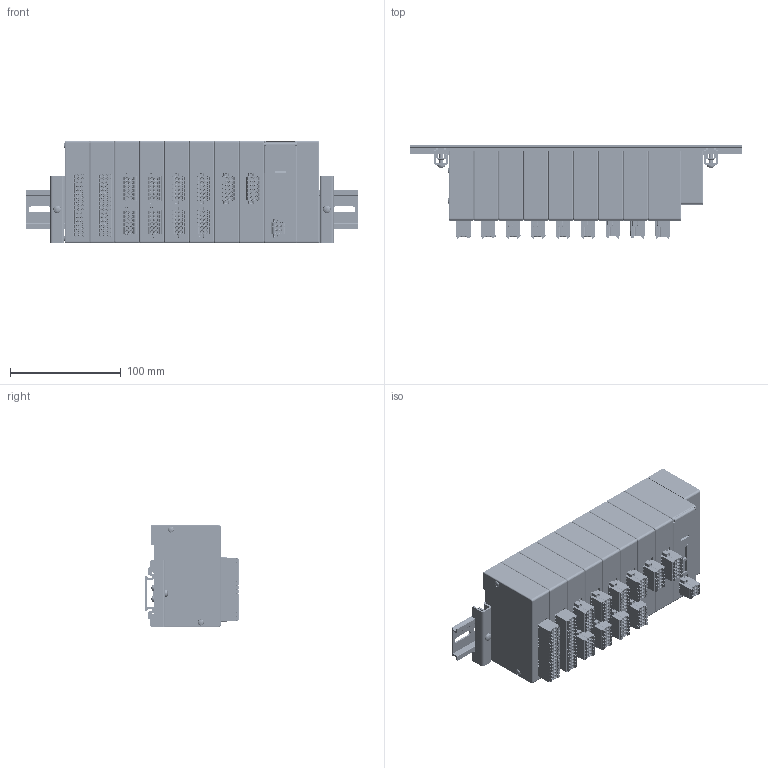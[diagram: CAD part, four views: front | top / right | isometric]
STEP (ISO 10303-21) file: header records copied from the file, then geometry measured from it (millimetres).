
FILE_DESCRIPTION( (''), '2;1');
FILE_NAME ('YS8EM3-8-DR.stp','2022-12-02T08:38:07',(''),(''),'spGate 12.6.6','','');
FILE_SCHEMA (('AUTOMOTIVE_DESIGN'));
Length unit declared in the file: millimetre
Products named in the file (8): Assembly; YS8EM3-8-DR-prt0; YS8EM3-8-DR-prt1; YS8EM3-8-DR-prt2; YS8EM3-8-DR-prt3; YS8EM3-8-DR-prt4; YS8EM3-8-DR-prt5; YS8EM3-8-DR-prt6
Assembly tree (12 placements, depth 2):
  Assembly
    YS8EM3-8-DR-prt0
    YS8EM3-8-DR-prt1
    YS8EM3-8-DR-prt2  x2
    YS8EM3-8-DR-prt3  x2
    YS8EM3-8-DR-prt4  x2
    YS8EM3-8-DR-prt5  x2
    YS8EM3-8-DR-prt6  x2
Bounding box: 300 x 84.4 x 93 mm (x, y, z)
Volume: 1340990.9 mm3; surface area: 279413.8 mm2
Topology: 12 solids, 12 shells, 12559 faces, 32865 edges, 21189 vertices
Faces by surface type: plane 7813, cylinder 3824, bspline 906, sphere 16
Entity records: 353832 total; most frequent: CARTESIAN_POINT 49275, ORIENTED_EDGE 34906, DIRECTION 33508, COLOUR_RGB 24134, PRESENTATION_STYLE_ASSIGNMENT 24134, STYLED_ITEM 24134, EDGE_CURVE 17453, DRAUGHTING_PRE_DEFINED_CURVE_FONT 17453
